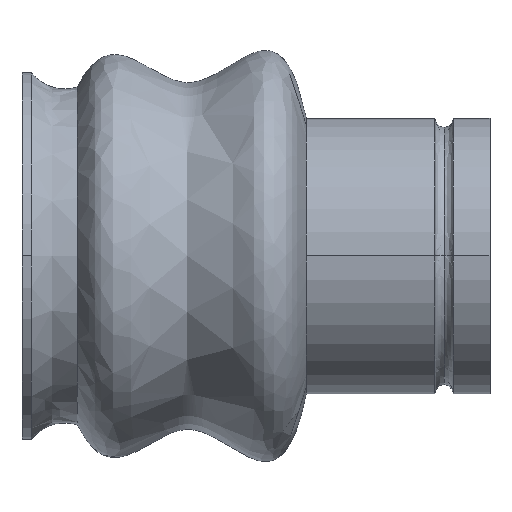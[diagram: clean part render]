
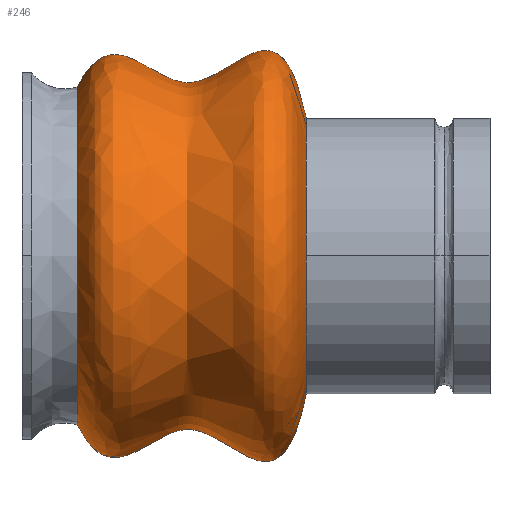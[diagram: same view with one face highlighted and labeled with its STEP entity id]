
A CAD part, top view. The second image highlights one B-rep face of the part: STEP entity #246.
In plain terms, the highlighted free-form (B-spline) face has degree [3, 3] with [5, 4] control points.
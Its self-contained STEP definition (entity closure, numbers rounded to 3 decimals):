
#26 = DIRECTION ( 'NONE',  ( 0., 0., -1. ) ) ;
#27 = CARTESIAN_POINT ( 'NONE',  ( 3., -9.194, 0. ) ) ;
#40 = AXIS2_PLACEMENT_3D ( 'NONE', #582, #926, #26 ) ;
#60 = VERTEX_POINT ( 'NONE', #987 ) ;
#77 = VERTEX_POINT ( 'NONE', #27 ) ;
#93 = VERTEX_POINT ( 'NONE', #683 ) ;
#101 = CARTESIAN_POINT ( 'NONE',  ( 4.926, -13.031, 26.062 ) ) ;
#106 = CARTESIAN_POINT ( 'NONE',  ( 3., -9.194, 0. ) ) ;
#107 = CARTESIAN_POINT ( 'NONE',  ( 15.5, 0., 0. ) ) ;
#131 = EDGE_CURVE ( 'NONE', #77, #93, #510, .T. ) ;
#177 = ORIENTED_EDGE ( 'NONE', *, *, #131, .T. ) ;
#201 = CARTESIAN_POINT ( 'NONE',  ( 9.386, -5.196, 10.392 ) ) ;
#203 = CARTESIAN_POINT ( 'NONE',  ( 14.068, 14.501, 0. ) ) ;
#238 = CIRCLE ( 'NONE', #1011, 7.5 ) ;
#246 = ADVANCED_FACE ( 'NONE', ( #722 ), #583, .F. ) ;
#279 = CARTESIAN_POINT ( 'NONE',  ( 15.5, 7.5, 0. ) ) ;
#281 = VERTEX_POINT ( 'NONE', #932 ) ;
#313 = ORIENTED_EDGE ( 'NONE', *, *, #359, .F. ) ;
#330 = AXIS2_PLACEMENT_3D ( 'NONE', #685, #904, #702 ) ;
#338 = DIRECTION ( 'NONE',  ( 0., 0., -1. ) ) ;
#339 = ORIENTED_EDGE ( 'NONE', *, *, #509, .T. ) ;
#359 = EDGE_CURVE ( 'NONE', #820, #93, #769, .T. ) ;
#383 = B_SPLINE_CURVE_WITH_KNOTS ( 'NONE', 3,
 ( #723, #396, #681, #917, #389 ),
 .UNSPECIFIED., .F., .F.,
 ( 4, 1, 4 ),
 ( 0., 0.548, 1. ),
 .UNSPECIFIED. ) ;
#389 = CARTESIAN_POINT ( 'NONE',  ( 3., 9.194, 0. ) ) ;
#396 = CARTESIAN_POINT ( 'NONE',  ( 14.068, 14.501, 0. ) ) ;
#430 = ORIENTED_EDGE ( 'NONE', *, *, #635, .T. ) ;
#456 = CARTESIAN_POINT ( 'NONE',  ( 4.926, 13.031, 0. ) ) ;
#509 = EDGE_CURVE ( 'NONE', #60, #281, #383, .T. ) ;
#510 = B_SPLINE_CURVE_WITH_KNOTS ( 'NONE', 3,
 ( #809, #532, #588, #609, #848 ),
 .UNSPECIFIED., .F., .F.,
 ( 4, 1, 4 ),
 ( 0., 0.452, 1. ),
 .UNSPECIFIED. ) ;
#518 = CARTESIAN_POINT ( 'NONE',  ( 3., 9.194, 18.388 ) ) ;
#520 = CARTESIAN_POINT ( 'NONE',  ( 3., 9.194, 0. ) ) ;
#532 = CARTESIAN_POINT ( 'NONE',  ( 4.926, -13.031, 0. ) ) ;
#539 = CARTESIAN_POINT ( 'NONE',  ( 4.926, -13.031, 0. ) ) ;
#582 = CARTESIAN_POINT ( 'NONE',  ( 3., 0., 0. ) ) ;
#583 =( BOUNDED_SURFACE ( )  B_SPLINE_SURFACE ( 3, 3, ( 
 ( #682, #931, #711, #279 ),
 ( #946, #686, #992, #203 ),
 ( #675, #201, #908, #655 ),
 ( #539, #101, #595, #456 ),
 ( #106, #747, #518, #520 ) ),
 .UNSPECIFIED., .F., .F., .F. ) 
 B_SPLINE_SURFACE_WITH_KNOTS ( ( 4, 1, 4 ),
 ( 4, 4 ),
 ( 0., 0.548, 1. ),
 ( 0., 1. ),
 .UNSPECIFIED. ) 
 GEOMETRIC_REPRESENTATION_ITEM ( )  RATIONAL_B_SPLINE_SURFACE ( (
 ( 1., 0.333, 0.333, 1.),
 ( 1., 0.333, 0.333, 1.),
 ( 1., 0.333, 0.333, 1.),
 ( 1., 0.333, 0.333, 1.),
 ( 1., 0.333, 0.333, 1.) ) ) 
 REPRESENTATION_ITEM ( '' )  SURFACE ( )  );
#588 = CARTESIAN_POINT ( 'NONE',  ( 9.386, -5.196, 0. ) ) ;
#595 = CARTESIAN_POINT ( 'NONE',  ( 4.926, 13.031, 26.062 ) ) ;
#609 = CARTESIAN_POINT ( 'NONE',  ( 14.068, -14.501, 0. ) ) ;
#635 = EDGE_CURVE ( 'NONE', #281, #77, #920, .T. ) ;
#655 = CARTESIAN_POINT ( 'NONE',  ( 9.386, 5.196, 0. ) ) ;
#675 = CARTESIAN_POINT ( 'NONE',  ( 9.386, -5.196, 0. ) ) ;
#681 = CARTESIAN_POINT ( 'NONE',  ( 9.386, 5.196, 0. ) ) ;
#682 = CARTESIAN_POINT ( 'NONE',  ( 15.5, -7.5, 0. ) ) ;
#683 = CARTESIAN_POINT ( 'NONE',  ( 15.5, -7.5, 0. ) ) ;
#685 = CARTESIAN_POINT ( 'NONE',  ( 15.5, 0., 0. ) ) ;
#686 = CARTESIAN_POINT ( 'NONE',  ( 14.068, -14.501, 29.001 ) ) ;
#702 = DIRECTION ( 'NONE',  ( 0., 0., -1. ) ) ;
#711 = CARTESIAN_POINT ( 'NONE',  ( 15.5, 7.5, 15. ) ) ;
#722 = FACE_OUTER_BOUND ( 'NONE', #736, .T. ) ;
#723 = CARTESIAN_POINT ( 'NONE',  ( 15.5, 7.5, 0. ) ) ;
#736 = EDGE_LOOP ( 'NONE', ( #806, #339, #430, #177, #313 ) ) ;
#747 = CARTESIAN_POINT ( 'NONE',  ( 3., -9.194, 18.388 ) ) ;
#769 = CIRCLE ( 'NONE', #330, 7.5 ) ;
#806 = ORIENTED_EDGE ( 'NONE', *, *, #963, .F. ) ;
#809 = CARTESIAN_POINT ( 'NONE',  ( 3., -9.194, 0. ) ) ;
#820 = VERTEX_POINT ( 'NONE', #879 ) ;
#848 = CARTESIAN_POINT ( 'NONE',  ( 15.5, -7.5, 0. ) ) ;
#879 = CARTESIAN_POINT ( 'NONE',  ( 15.5, 0., 7.5 ) ) ;
#904 = DIRECTION ( 'NONE',  ( 1., 0., 0. ) ) ;
#908 = CARTESIAN_POINT ( 'NONE',  ( 9.386, 5.196, 10.392 ) ) ;
#917 = CARTESIAN_POINT ( 'NONE',  ( 4.926, 13.031, 0. ) ) ;
#920 = CIRCLE ( 'NONE', #40, 9.194 ) ;
#926 = DIRECTION ( 'NONE',  ( 1., 0., 0. ) ) ;
#931 = CARTESIAN_POINT ( 'NONE',  ( 15.5, -7.5, 15. ) ) ;
#932 = CARTESIAN_POINT ( 'NONE',  ( 3., 9.194, 0. ) ) ;
#946 = CARTESIAN_POINT ( 'NONE',  ( 14.068, -14.501, 0. ) ) ;
#963 = EDGE_CURVE ( 'NONE', #60, #820, #238, .T. ) ;
#987 = CARTESIAN_POINT ( 'NONE',  ( 15.5, 7.5, 0. ) ) ;
#992 = CARTESIAN_POINT ( 'NONE',  ( 14.068, 14.501, 29.001 ) ) ;
#1011 = AXIS2_PLACEMENT_3D ( 'NONE', #107, #1024, #338 ) ;
#1024 = DIRECTION ( 'NONE',  ( 1., 0., 0. ) ) ;
